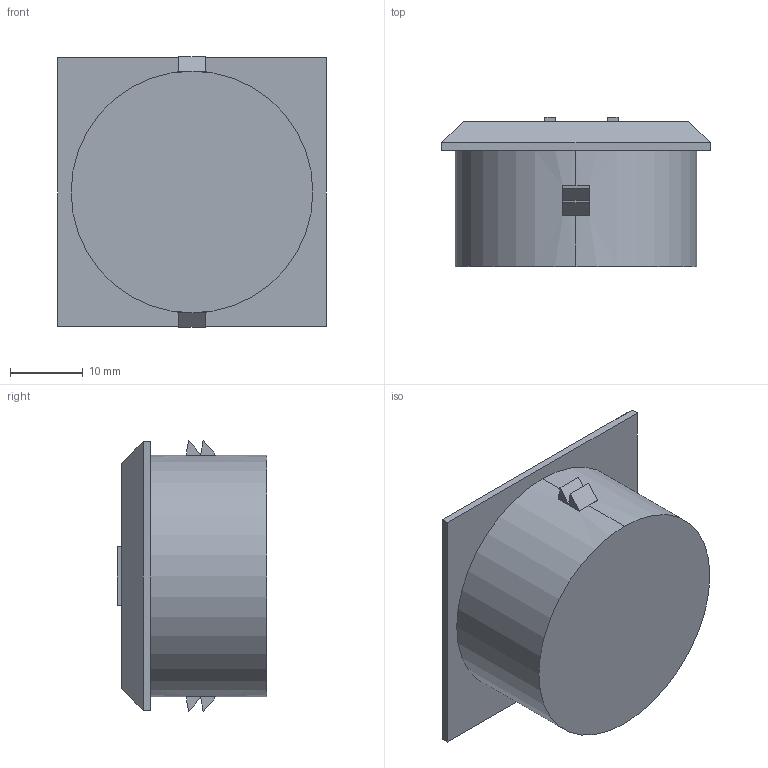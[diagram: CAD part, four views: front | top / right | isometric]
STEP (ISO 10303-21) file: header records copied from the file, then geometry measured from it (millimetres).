
FILE_DESCRIPTION (( 'STEP AP214' ), '1' );
FILE_NAME ('1511301.STEP', '2018-06-28T09:51:47', ( '' ), ( '' ), 'SwSTEP 2.0', 'SolidWorks 2014', '' );
FILE_SCHEMA (( 'AUTOMOTIVE_DESIGN' ));
Length unit declared in the file: millimetre
Products named in the file (1): 1511301
Bounding box: 37 x 20.56 x 37.3 mm (x, y, z)
Volume: 18307.5 mm3; surface area: 5790.7 mm2
Topology: 1 solids, 1 shells, 68 faces, 162 edges, 104 vertices
Faces by surface type: plane 66, cylinder 2
Entity records: 1956 total; most frequent: CARTESIAN_POINT 335, ORIENTED_EDGE 324, DIRECTION 312, EDGE_CURVE 162, VECTOR 150, LINE 150, VERTEX_POINT 104, AXIS2_PLACEMENT_3D 81
